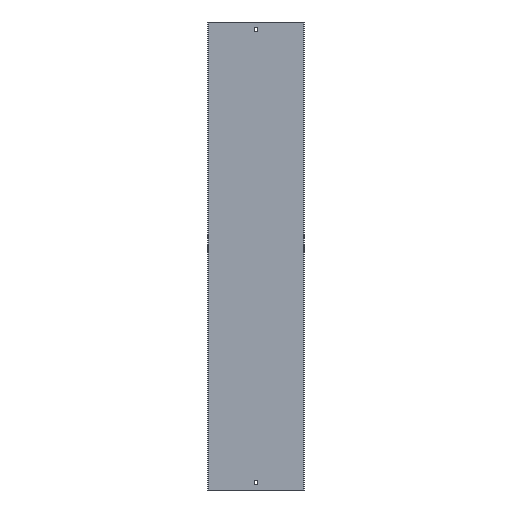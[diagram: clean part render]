
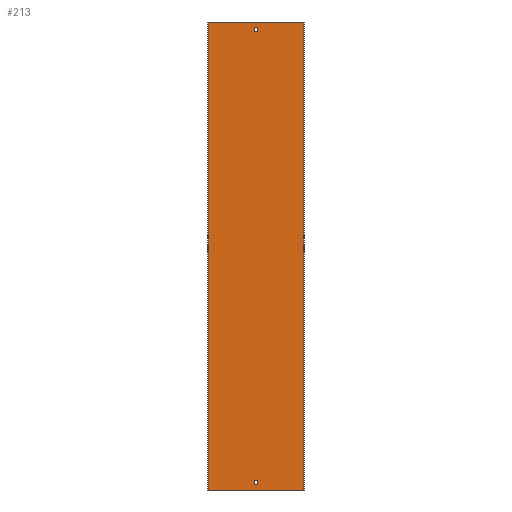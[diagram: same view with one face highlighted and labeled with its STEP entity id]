
A CAD part, front view. The second image highlights one B-rep face of the part: STEP entity #213.
In plain terms, the highlighted planar face has unit normal (0, -1, 0).
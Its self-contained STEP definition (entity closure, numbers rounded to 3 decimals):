
#10 = VECTOR ( 'NONE', #329, 1000. ) ;
#20 = EDGE_CURVE ( 'NONE', #55, #51, #224, .T. ) ;
#24 = ORIENTED_EDGE ( 'NONE', *, *, #300, .F. ) ;
#26 = ORIENTED_EDGE ( 'NONE', *, *, #587, .F. ) ;
#31 = ORIENTED_EDGE ( 'NONE', *, *, #288, .T. ) ;
#42 = DIRECTION ( 'NONE',  ( 0., 0., -1. ) ) ;
#47 = CARTESIAN_POINT ( 'NONE',  ( -102., -1.5, -500. ) ) ;
#50 = VECTOR ( 'NONE', #87, 1000. ) ;
#51 = VERTEX_POINT ( 'NONE', #264 ) ;
#52 = FACE_BOUND ( 'NONE', #169, .T. ) ;
#55 = VERTEX_POINT ( 'NONE', #221 ) ;
#62 = DIRECTION ( 'NONE',  ( -1., 0., 0. ) ) ;
#68 = VECTOR ( 'NONE', #62, 1000. ) ;
#75 = ORIENTED_EDGE ( 'NONE', *, *, #144, .F. ) ;
#77 = VECTOR ( 'NONE', #223, 1000. ) ;
#85 = EDGE_LOOP ( 'NONE', ( #469, #382, #392, #98 ) ) ;
#87 = DIRECTION ( 'NONE',  ( -1., 0., 0. ) ) ;
#98 = ORIENTED_EDGE ( 'NONE', *, *, #387, .T. ) ;
#105 = LINE ( 'NONE', #328, #482 ) ;
#114 = VERTEX_POINT ( 'NONE', #530 ) ;
#118 = LINE ( 'NONE', #265, #307 ) ;
#126 = CARTESIAN_POINT ( 'NONE',  ( -3.25, -1.5, 500. ) ) ;
#128 = ORIENTED_EDGE ( 'NONE', *, *, #441, .T. ) ;
#131 = DIRECTION ( 'NONE',  ( 0., 0., -1. ) ) ;
#141 = VECTOR ( 'NONE', #528, 1000. ) ;
#144 = EDGE_CURVE ( 'NONE', #114, #149, #432, .T. ) ;
#145 = DIRECTION ( 'NONE',  ( 0., -1., 0. ) ) ;
#149 = VERTEX_POINT ( 'NONE', #489 ) ;
#151 = VERTEX_POINT ( 'NONE', #252 ) ;
#160 = CARTESIAN_POINT ( 'NONE',  ( 3.25, -1.5, -479. ) ) ;
#162 = EDGE_CURVE ( 'NONE', #517, #151, #551, .T. ) ;
#169 = EDGE_LOOP ( 'NONE', ( #512, #222, #75, #24 ) ) ;
#171 = DIRECTION ( 'NONE',  ( 0., 0., -1. ) ) ;
#181 = FACE_BOUND ( 'NONE', #85, .T. ) ;
#184 = CARTESIAN_POINT ( 'NONE',  ( -3.25, -1.5, -488. ) ) ;
#200 = DIRECTION ( 'NONE',  ( 0., 0., 1. ) ) ;
#203 = LINE ( 'NONE', #422, #68 ) ;
#209 = VECTOR ( 'NONE', #407, 1000. ) ;
#212 = VERTEX_POINT ( 'NONE', #47 ) ;
#213 = ADVANCED_FACE ( 'NONE', ( #52, #228, #181 ), #232, .T. ) ;
#221 = CARTESIAN_POINT ( 'NONE',  ( -3.25, -1.5, 488. ) ) ;
#222 = ORIENTED_EDGE ( 'NONE', *, *, #395, .F. ) ;
#223 = DIRECTION ( 'NONE',  ( 0., 0., 1. ) ) ;
#224 = LINE ( 'NONE', #126, #209 ) ;
#228 = FACE_OUTER_BOUND ( 'NONE', #303, .T. ) ;
#232 = PLANE ( 'NONE',  #242 ) ;
#239 = CARTESIAN_POINT ( 'NONE',  ( 3.25, -1.5, 500. ) ) ;
#242 = AXIS2_PLACEMENT_3D ( 'NONE', #274, #145, #42 ) ;
#252 = CARTESIAN_POINT ( 'NONE',  ( -3.25, -1.5, -479. ) ) ;
#260 = LINE ( 'NONE', #442, #50 ) ;
#263 = LINE ( 'NONE', #341, #290 ) ;
#264 = CARTESIAN_POINT ( 'NONE',  ( -3.25, -1.5, 479. ) ) ;
#265 = CARTESIAN_POINT ( 'NONE',  ( 3.25, -1.5, 500. ) ) ;
#274 = CARTESIAN_POINT ( 'NONE',  ( -103.5, -1.5, 500. ) ) ;
#282 = ORIENTED_EDGE ( 'NONE', *, *, #492, .F. ) ;
#288 = EDGE_CURVE ( 'NONE', #419, #582, #203, .T. ) ;
#290 = VECTOR ( 'NONE', #536, 1000. ) ;
#291 = CARTESIAN_POINT ( 'NONE',  ( -103.5, -1.5, -479. ) ) ;
#295 = DIRECTION ( 'NONE',  ( -1., 0., 0. ) ) ;
#296 = EDGE_CURVE ( 'NONE', #151, #326, #478, .T. ) ;
#300 = EDGE_CURVE ( 'NONE', #51, #114, #105, .T. ) ;
#303 = EDGE_LOOP ( 'NONE', ( #26, #282, #31, #128 ) ) ;
#307 = VECTOR ( 'NONE', #171, 1000. ) ;
#309 = VERTEX_POINT ( 'NONE', #560 ) ;
#311 = EDGE_CURVE ( 'NONE', #309, #517, #336, .T. ) ;
#321 = CARTESIAN_POINT ( 'NONE',  ( -3.25, -1.5, 500. ) ) ;
#324 = LINE ( 'NONE', #561, #10 ) ;
#326 = VERTEX_POINT ( 'NONE', #160 ) ;
#328 = CARTESIAN_POINT ( 'NONE',  ( -103.5, -1.5, 479. ) ) ;
#329 = DIRECTION ( 'NONE',  ( -1., 0., 0. ) ) ;
#336 = LINE ( 'NONE', #425, #524 ) ;
#341 = CARTESIAN_POINT ( 'NONE',  ( -102., -1.5, 500. ) ) ;
#347 = CARTESIAN_POINT ( 'NONE',  ( 102., -1.5, 500. ) ) ;
#374 = CARTESIAN_POINT ( 'NONE',  ( -102., -1.5, 500. ) ) ;
#382 = ORIENTED_EDGE ( 'NONE', *, *, #162, .T. ) ;
#385 = VECTOR ( 'NONE', #200, 1000. ) ;
#387 = EDGE_CURVE ( 'NONE', #326, #309, #118, .T. ) ;
#392 = ORIENTED_EDGE ( 'NONE', *, *, #296, .T. ) ;
#395 = EDGE_CURVE ( 'NONE', #149, #55, #260, .T. ) ;
#407 = DIRECTION ( 'NONE',  ( 0., 0., -1. ) ) ;
#418 = LINE ( 'NONE', #553, #447 ) ;
#419 = VERTEX_POINT ( 'NONE', #347 ) ;
#422 = CARTESIAN_POINT ( 'NONE',  ( -103.5, -1.5, 500. ) ) ;
#425 = CARTESIAN_POINT ( 'NONE',  ( -103.5, -1.5, -488. ) ) ;
#432 = LINE ( 'NONE', #239, #385 ) ;
#441 = EDGE_CURVE ( 'NONE', #582, #212, #263, .T. ) ;
#442 = CARTESIAN_POINT ( 'NONE',  ( -103.5, -1.5, 488. ) ) ;
#447 = VECTOR ( 'NONE', #131, 1000. ) ;
#466 = CARTESIAN_POINT ( 'NONE',  ( 102., -1.5, -500. ) ) ;
#469 = ORIENTED_EDGE ( 'NONE', *, *, #311, .T. ) ;
#478 = LINE ( 'NONE', #291, #141 ) ;
#482 = VECTOR ( 'NONE', #518, 1000. ) ;
#489 = CARTESIAN_POINT ( 'NONE',  ( 3.25, -1.5, 488. ) ) ;
#492 = EDGE_CURVE ( 'NONE', #419, #501, #418, .T. ) ;
#501 = VERTEX_POINT ( 'NONE', #466 ) ;
#512 = ORIENTED_EDGE ( 'NONE', *, *, #20, .F. ) ;
#517 = VERTEX_POINT ( 'NONE', #184 ) ;
#518 = DIRECTION ( 'NONE',  ( 1., 0., 0. ) ) ;
#524 = VECTOR ( 'NONE', #295, 1000. ) ;
#528 = DIRECTION ( 'NONE',  ( 1., 0., 0. ) ) ;
#530 = CARTESIAN_POINT ( 'NONE',  ( 3.25, -1.5, 479. ) ) ;
#536 = DIRECTION ( 'NONE',  ( 0., 0., -1. ) ) ;
#551 = LINE ( 'NONE', #321, #77 ) ;
#553 = CARTESIAN_POINT ( 'NONE',  ( 102., -1.5, 500. ) ) ;
#560 = CARTESIAN_POINT ( 'NONE',  ( 3.25, -1.5, -488. ) ) ;
#561 = CARTESIAN_POINT ( 'NONE',  ( -103.5, -1.5, -500. ) ) ;
#582 = VERTEX_POINT ( 'NONE', #374 ) ;
#587 = EDGE_CURVE ( 'NONE', #501, #212, #324, .T. ) ;
